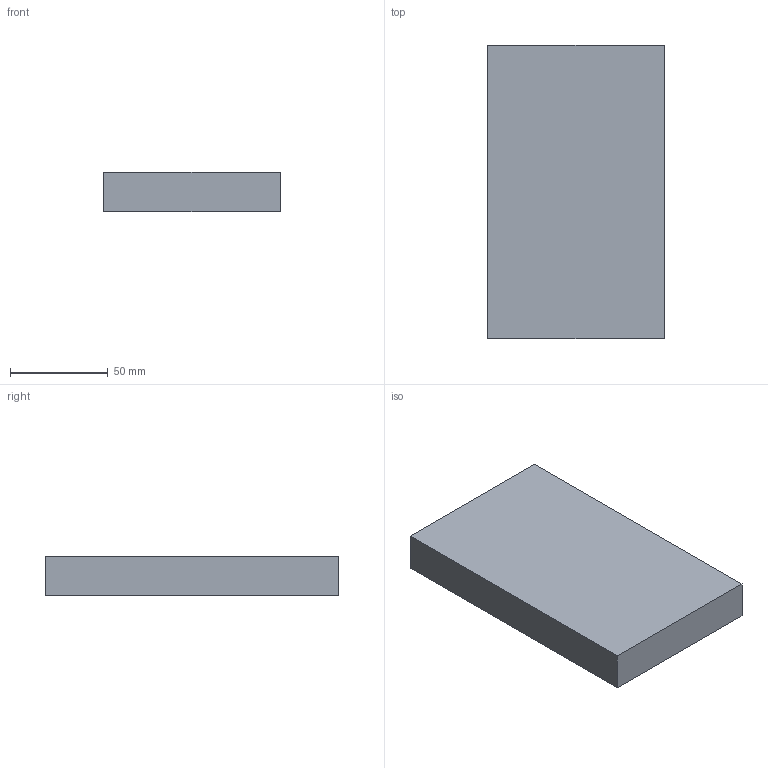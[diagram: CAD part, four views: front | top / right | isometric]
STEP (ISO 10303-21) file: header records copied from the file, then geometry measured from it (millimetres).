
FILE_DESCRIPTION(('Open CASCADE Model'),'2;1');
FILE_NAME('Open CASCADE Shape Model','2026-10-15T15:10:04',('Author'),( 'Open CASCADE'),'Open CASCADE STEP processor 8.0','Open CASCADE 8.0' ,'Unknown');
FILE_SCHEMA(('AUTOMOTIVE_DESIGN { 1 0 10303 214 1 1 1 1 }'));
Length unit declared in the file: millimetre
Products named in the file (1): CR_RESPALDO_EXTREMA_90x150x20_P05 81
Bounding box: 90 x 150 x 20 mm (x, y, z)
Volume: 270000 mm3; surface area: 36600 mm2
Topology: 1 solids, 1 shells, 6 faces, 12 edges, 8 vertices
Faces by surface type: plane 6
Entity records: 322 total; most frequent: CARTESIAN_POINT 51, DIRECTION 50, LINE 36, VECTOR 36, ORIENTED_EDGE 24, PCURVE 24, DEFINITIONAL_REPRESENTATION 24, EDGE_CURVE 12
